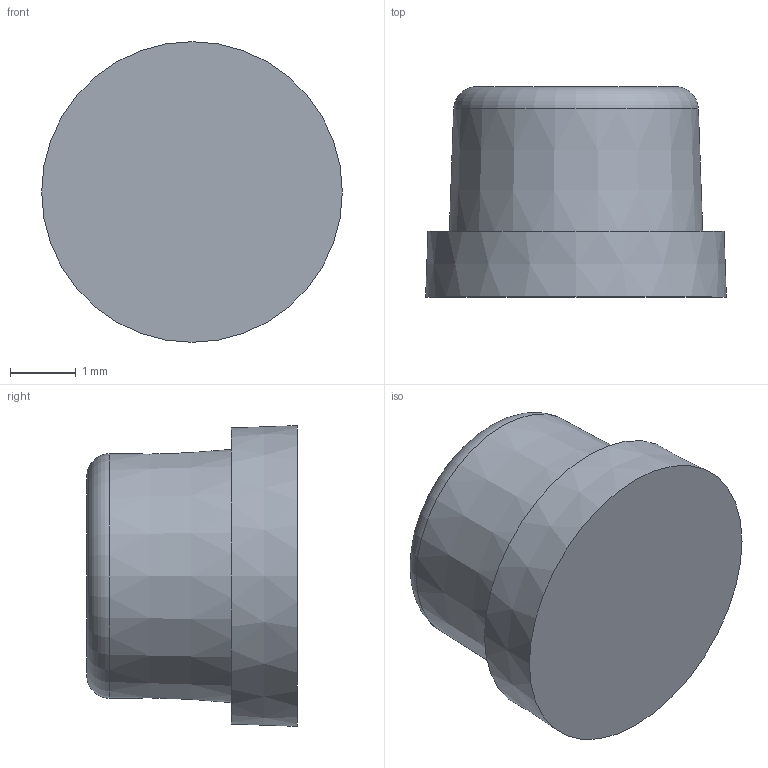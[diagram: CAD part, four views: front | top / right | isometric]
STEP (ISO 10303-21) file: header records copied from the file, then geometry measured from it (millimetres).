
FILE_DESCRIPTION(/* description */ (''),/* implementation_level */ '2;1');
FILE_NAME(/* name */ 'resetButtonFDM.step',/* time_stamp */ '2026-07-04T14:00:22-07:00',/* author */ (''),/* organization */ (''),/* preprocessor_version */ 'ST-DEVELOPER v20.1',/* originating_system */ 'Autodesk Translation Framework v15.8.0.0',/* authorisation */ '');
FILE_SCHEMA (('AUTOMOTIVE_DESIGN { 1 0 10303 214 3 1 1 }'));
Length unit declared in the file: millimetre
Products named in the file (1): resetButton
Bounding box: 4.57 x 3.2 x 4.57 mm (x, y, z)
Volume: 39.5 mm3; surface area: 70.3 mm2
Topology: 1 solids, 1 shells, 6 faces, 9 edges, 6 vertices
Faces by surface type: cone 2, plane 2, torus 1, sphere 1
Entity records: 173 total; most frequent: DIRECTION 30, CARTESIAN_POINT 22, ORIENTED_EDGE 18, AXIS2_PLACEMENT_3D 14, EDGE_CURVE 9, EDGE_LOOP 7, CIRCLE 7, FACE_OUTER_BOUND 6
